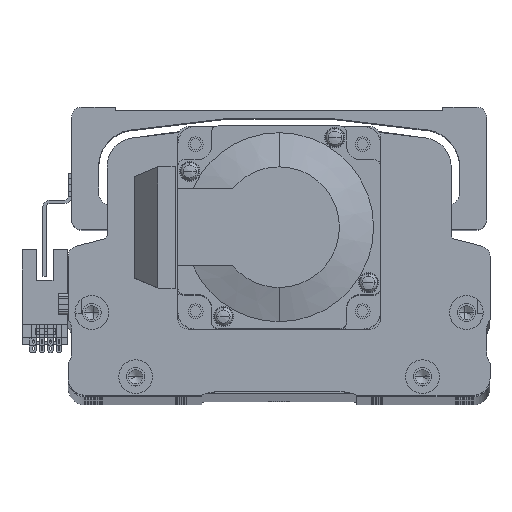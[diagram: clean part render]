
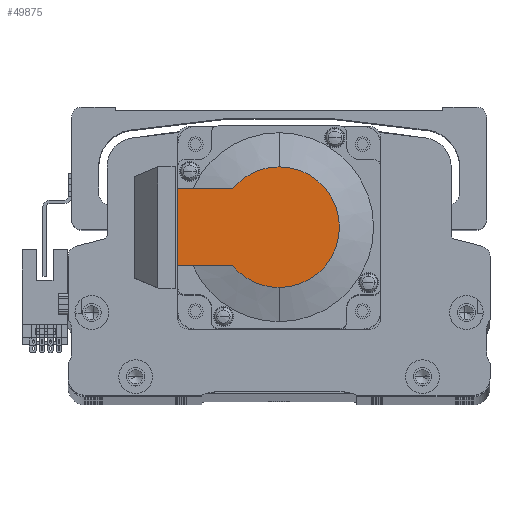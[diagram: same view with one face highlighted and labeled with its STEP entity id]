
A CAD part, top view. The second image highlights one B-rep face of the part: STEP entity #49875.
In plain terms, the highlighted planar face has unit normal (0, 0, 1) as drawn and (-1, 0, 0) by its records, which use the part's own axes.
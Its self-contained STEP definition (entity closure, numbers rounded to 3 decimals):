
#903 = DIRECTION ( 'NONE',  ( -1., 0., 0. ) ) ;
#1996 = VERTEX_POINT ( 'NONE', #2341 ) ;
#2298 = DIRECTION ( 'NONE',  ( -1., 0., 0. ) ) ;
#2341 = CARTESIAN_POINT ( 'NONE',  ( -118.5, 30., -11.45 ) ) ;
#3025 = AXIS2_PLACEMENT_3D ( 'NONE', #37395, #9488, #42035 ) ;
#5376 = CIRCLE ( 'NONE', #36168, 17.881 ) ;
#5411 = CARTESIAN_POINT ( 'NONE',  ( -118.5, 0., -17.881 ) ) ;
#9488 = DIRECTION ( 'NONE',  ( -1., 0., 0. ) ) ;
#9909 = DIRECTION ( 'NONE',  ( -1., 0., 0. ) ) ;
#10085 = DIRECTION ( 'NONE',  ( 0., 0., 1. ) ) ;
#14344 = CARTESIAN_POINT ( 'NONE',  ( -118.5, -8.941, -11.45 ) ) ;
#14539 = ORIENTED_EDGE ( 'NONE', *, *, #15209, .T. ) ;
#14559 = PLANE ( 'NONE',  #46623 ) ;
#15209 = EDGE_CURVE ( 'NONE', #51439, #37121, #18374, .T. ) ;
#15874 = VECTOR ( 'NONE', #58362, 1000. ) ;
#16540 = LINE ( 'NONE', #37977, #41318 ) ;
#17634 = CARTESIAN_POINT ( 'NONE',  ( -118.5, 0., 17.881 ) ) ;
#18374 = CIRCLE ( 'NONE', #3025, 17.881 ) ;
#20003 = EDGE_CURVE ( 'NONE', #33220, #51439, #5376, .T. ) ;
#20232 = EDGE_LOOP ( 'NONE', ( #43659, #32122, #33119, #14539, #37373, #34549 ) ) ;
#23883 = LINE ( 'NONE', #25937, #15874 ) ;
#25937 = CARTESIAN_POINT ( 'NONE',  ( -118.5, 0., 11.45 ) ) ;
#26535 = EDGE_CURVE ( 'NONE', #57283, #33220, #53125, .T. ) ;
#28798 = CARTESIAN_POINT ( 'NONE',  ( -118.5, -8.941, 0. ) ) ;
#30190 = CARTESIAN_POINT ( 'NONE',  ( -118.5, 0., 0. ) ) ;
#32122 = ORIENTED_EDGE ( 'NONE', *, *, #26535, .T. ) ;
#33119 = ORIENTED_EDGE ( 'NONE', *, *, #20003, .T. ) ;
#33211 = EDGE_CURVE ( 'NONE', #1996, #50560, #16540, .T. ) ;
#33220 = VERTEX_POINT ( 'NONE', #5411 ) ;
#33429 = DIRECTION ( 'NONE',  ( 0., 0., 1. ) ) ;
#34549 = ORIENTED_EDGE ( 'NONE', *, *, #33211, .F. ) ;
#34811 = DIRECTION ( 'NONE',  ( 0., 0., -1. ) ) ;
#36168 = AXIS2_PLACEMENT_3D ( 'NONE', #37778, #9909, #42449 ) ;
#37121 = VERTEX_POINT ( 'NONE', #38475 ) ;
#37373 = ORIENTED_EDGE ( 'NONE', *, *, #58343, .F. ) ;
#37395 = CARTESIAN_POINT ( 'NONE',  ( -118.5, 0., 0. ) ) ;
#37778 = CARTESIAN_POINT ( 'NONE',  ( -118.5, 0., 0. ) ) ;
#37977 = CARTESIAN_POINT ( 'NONE',  ( -118.5, 30., 25. ) ) ;
#38475 = CARTESIAN_POINT ( 'NONE',  ( -118.5, 13.735, 11.45 ) ) ;
#41318 = VECTOR ( 'NONE', #10085, 1000. ) ;
#41415 = VECTOR ( 'NONE', #42174, 1000. ) ;
#42035 = DIRECTION ( 'NONE',  ( 0., 0., -1. ) ) ;
#42174 = DIRECTION ( 'NONE',  ( 0., -1., 0. ) ) ;
#42449 = DIRECTION ( 'NONE',  ( 0., 0., -1. ) ) ;
#43659 = ORIENTED_EDGE ( 'NONE', *, *, #45490, .T. ) ;
#45490 = EDGE_CURVE ( 'NONE', #1996, #57283, #53721, .T. ) ;
#46623 = AXIS2_PLACEMENT_3D ( 'NONE', #28798, #903, #33429 ) ;
#49875 = ADVANCED_FACE ( 'NONE', ( #52648 ), #14559, .T. ) ;
#50560 = VERTEX_POINT ( 'NONE', #57269 ) ;
#51439 = VERTEX_POINT ( 'NONE', #17634 ) ;
#52648 = FACE_OUTER_BOUND ( 'NONE', #20232, .T. ) ;
#53125 = CIRCLE ( 'NONE', #60186, 17.881 ) ;
#53721 = LINE ( 'NONE', #14344, #41415 ) ;
#57269 = CARTESIAN_POINT ( 'NONE',  ( -118.5, 30., 11.45 ) ) ;
#57283 = VERTEX_POINT ( 'NONE', #59105 ) ;
#58343 = EDGE_CURVE ( 'NONE', #50560, #37121, #23883, .T. ) ;
#58362 = DIRECTION ( 'NONE',  ( 0., -1., 0. ) ) ;
#59105 = CARTESIAN_POINT ( 'NONE',  ( -118.5, 13.735, -11.45 ) ) ;
#60186 = AXIS2_PLACEMENT_3D ( 'NONE', #30190, #2298, #34811 ) ;
